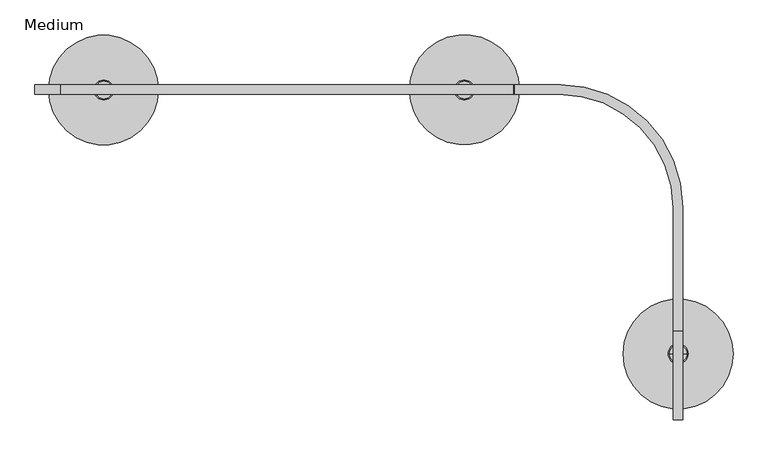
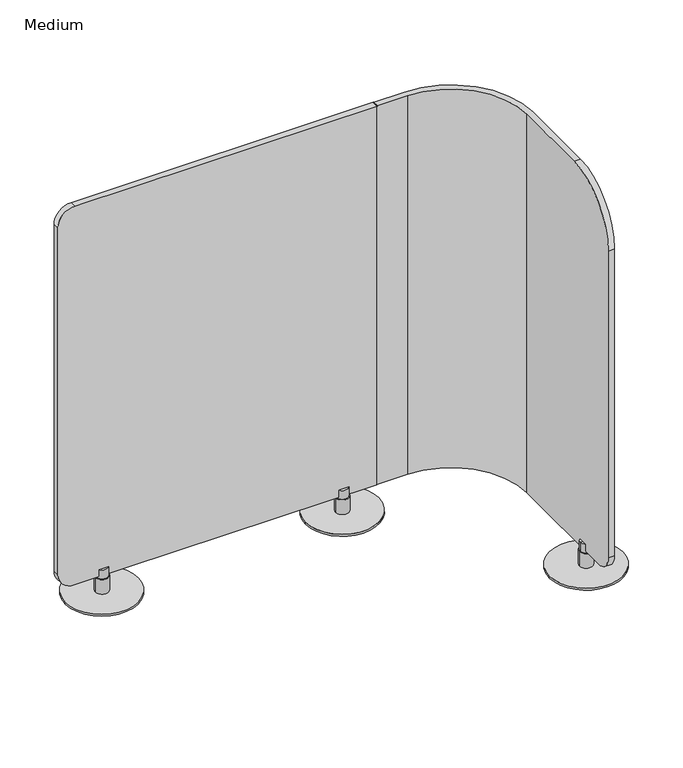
"""IFC4 building model written with IfcOpenShell, lengths in millimetres: furniture geometry, Coalesse_AM_SpaceDivision_Screen_Ensemble_J : Medium."""

from ifc_helpers import new_model, si_unit, point, frame, frame_2d, origin, origin_with_axes, place, context, project, spatial, polyline, circle_curve, trimmed, segment, composite_curve, outline, extrude, source, transform, mapped, element, save
from ifc_brep_helpers import plane_surface, cylinder_surface, revolved_surface, advanced_brep


def medium_1cc685ec(model_context):
    return source(origin(), model_context, "Body", "SolidModel", [
        advanced_brep(
        [(1070.6348132, -12.7, 7.8732992), (1121.4348132, -12.7, 7.8732992), (1096.0348132, -12.7, 7.8732992), (1070.6348132, -12.7, 67.1258584), (1121.4348132, -12.7, 67.1258584), (1073.8888853, -12.7, 67.1258584), (1118.1807411, -12.7, 67.1258584), (1073.8888853, -12.7, 102.873817), (1118.1807411, -12.7, 102.873817), (1096.0348132, -12.7, 102.873817)],
        [
            (0, 1, circle_curve(frame((1096.0348132, -12.7, 7.8732992), z_axis=(0.0, 0.0, -1.0), x_axis=(1.0, 0.0, 0.0)), 25.4)),
            (1, 2),
            (2, 0),
            (1, 0, circle_curve(frame((1096.0348132, -12.7, 7.8732992), z_axis=(0.0, 0.0, -1.0), x_axis=(1.0, 0.0, 0.0)), 25.4)),
            (3, 4, circle_curve(frame((1096.0348132, -12.7, 67.1258584), z_axis=(0.0, 0.0, -1.0), x_axis=(1.0, 0.0, 0.0)), 25.4)),
            (4, 1),
            (0, 3),
            (4, 3, circle_curve(frame((1096.0348132, -12.7, 67.1258584), z_axis=(0.0, 0.0, -1.0), x_axis=(1.0, 0.0, 0.0)), 25.4)),
            (5, 6, circle_curve(frame((1096.0348132, -12.7, 67.1258584), z_axis=(0.0, 0.0, -1.0), x_axis=(1.0, 0.0, 0.0)), 22.1459279)),
            (6, 4),
            (3, 5),
            (6, 5, circle_curve(frame((1096.0348132, -12.7, 67.1258584), z_axis=(0.0, 0.0, -1.0), x_axis=(1.0, 0.0, 0.0)), 22.1459279)),
            (7, 8, circle_curve(frame((1096.0348132, -12.7, 102.873817), z_axis=(0.0, 0.0, -1.0), x_axis=(1.0, 0.0, 0.0)), 22.1459279)),
            (8, 6),
            (5, 7),
            (8, 7, circle_curve(frame((1096.0348132, -12.7, 102.873817), z_axis=(0.0, 0.0, -1.0), x_axis=(1.0, 0.0, 0.0)), 22.1459279)),
            (9, 8),
            (7, 9),
        ],
        [
            plane_surface(frame((1096.0348132, -12.7, 7.8732992), z_axis=(0.0, 0.0, -1.0), x_axis=(1.0, 0.0, 0.0))),
            cylinder_surface(frame((1096.0348132, -12.7, 102.873817), z_axis=(0.0, 0.0, 1.0), x_axis=(1.0, 0.0, 0.0)), 25.4),
            plane_surface(frame((1096.0348132, -12.7, 67.1258584), z_axis=(0.0, 0.0, 1.0), x_axis=(1.0, 0.0, 0.0))),
            cylinder_surface(frame((1096.0348132, -12.7, 102.873817), z_axis=(0.0, 0.0, 1.0), x_axis=(1.0, 0.0, 0.0)), 22.1459279),
            plane_surface(frame((1096.0348132, -12.7, 102.873817), z_axis=(0.0, 0.0, 1.0), x_axis=(1.0, 0.0, 0.0))),
        ],
        [
            (0, [[1, 2, 3]]),
            (0, [[4, -3, -2]]),
            (1, [[5, 6, -1, 7]]),
            (1, [[8, -7, -4, -6]]),
            (2, [[9, 10, -5, 11]]),
            (2, [[12, -11, -8, -10]]),
            (3, [[13, 14, -9, 15]]),
            (3, [[16, -15, -12, -14]]),
            (4, [[17, -13, 18]]),
            (4, [[-18, -16, -17]]),
        ],
    ),
        advanced_brep(
        [(1653.2794195, -628.1115594, 1606.042), (1653.2794195, -853.9734079, 1380.1801515), (1653.2794195, -853.9734079, 139.3436268), (1653.2794195, -789.1395851, 74.509804), (1653.2794195, -311.8992003, 74.5093328), (1653.2794195, -311.8992003, 1606.042), (1629.3018689, -789.1395851, 74.509804), (1629.3018689, -853.9734079, 139.3436268), (1629.3018689, -853.9734079, 1380.1801515), (1629.3018689, -628.1115594, 1606.042), (1629.3018689, -314.6621864, 1606.042), (1629.3018689, -314.6621864, 74.5093328), (1338.6115194, -23.9718373, 74.509804), (1224.5282013, -23.9774863, 74.509804), (1224.5282013, 0.0, 74.509804), (1341.4047188, 0.0, 74.509804), (1341.4047188, 0.0, 1606.042), (1224.5474217, 0.0, 1606.042), (1224.5474217, -23.9774863, 1606.042), (1338.6115194, -23.9718373, 1606.042), (1223.313448, 0.0, 75.7241996), (1223.313448, 0.0, 1604.8080263), (1223.313448, -23.9774863, 1604.8080263), (1223.313448, -23.9774863, 75.7241996)],
        [
            (0, 1, circle_curve(frame((1653.2794195, -628.1115594, 1380.1801515), z_axis=(1.0, 0.0, 0.0), x_axis=(0.0, 1.0, 0.0)), 225.8618485)),
            (1, 2),
            (2, 3, circle_curve(frame((1653.2794195, -789.1395851, 139.3436268), z_axis=(1.0, 0.0, 0.0), x_axis=(0.0, 1.0, 0.0)), 64.8338228)),
            (3, 4),
            (4, 5),
            (5, 0),
            (6, 7, circle_curve(frame((1629.3018689, -789.1395851, 139.3436268), z_axis=(-1.0, 0.0, 0.0), x_axis=(0.0, 1.0, 0.0)), 64.8338228)),
            (7, 8),
            (8, 9, circle_curve(frame((1629.3018689, -628.1115594, 1380.1801515), z_axis=(-1.0, 0.0, 0.0), x_axis=(0.0, 1.0, 0.0)), 225.8618485)),
            (9, 10),
            (10, 11),
            (11, 6),
            (0, 9),
            (8, 1),
            (7, 2),
            (6, 3),
            (11, 12, circle_curve(frame((1338.6115194, -314.6621864, 74.509804), z_axis=(0.0, 0.0, 1.0), x_axis=(1.0, 0.0, 0.0)), 290.690349)),
            (12, 13),
            (13, 14),
            (14, 15),
            (15, 4, circle_curve(frame((1341.4047188, -311.8992003, 74.509804), z_axis=(0.0, 0.0, -1.0), x_axis=(1.0, 0.0, 0.0)), 311.8992003)),
            (5, 16, circle_curve(frame((1341.4047188, -311.8992003, 1606.042), z_axis=(0.0, 0.0, 1.0), x_axis=(1.0, 0.0, 0.0)), 311.8992003)),
            (16, 17),
            (17, 18),
            (18, 19),
            (19, 10, circle_curve(frame((1338.6115194, -314.6621864, 1606.042), z_axis=(0.0, 0.0, -1.0), x_axis=(1.0, 0.0, 0.0)), 290.690349)),
            (15, 16),
            (14, 20, circle_curve(frame((1224.5282013, 0.0, 75.7241996), z_axis=(0.0, 1.0, 0.0), x_axis=(1.0, 0.0, 0.0)), 1.2147532)),
            (20, 21),
            (21, 17, circle_curve(frame((1224.5474217, 0.0, 1604.8080263), z_axis=(0.0, 1.0, 0.0), x_axis=(1.0, 0.0, 0.0)), 1.2339737)),
            (22, 18, circle_curve(frame((1224.5474217, -23.9774863, 1604.8080263), z_axis=(0.0, 1.0, 0.0), x_axis=(1.0, 0.0, 0.0)), 1.2339737)),
            (21, 22),
            (23, 22),
            (20, 23),
            (13, 23, circle_curve(frame((1224.5282013, -23.9774863, 75.7241996), z_axis=(0.0, 1.0, 0.0), x_axis=(1.0, 0.0, 0.0)), 1.2147532)),
            (12, 19),
        ],
        [
            plane_surface(frame((1653.2794195, -402.2497109, 1380.1801515), z_axis=(1.0, 0.0, 0.0), x_axis=(0.0, 0.0, 1.0))),
            plane_surface(frame((1629.3018689, -402.2497109, 1380.1801515), z_axis=(-1.0, 0.0, 0.0), x_axis=(0.0, 0.0, -1.0))),
            cylinder_surface(frame((1629.3018689, -628.1115594, 1380.1801515), z_axis=(1.0, 0.0, 0.0), x_axis=(0.0, 1.0, 0.0)), 225.8618485),
            plane_surface(frame((1653.2794195, -853.9734079, 1380.1801515), z_axis=(0.0, -1.0, 0.0), x_axis=(-1.0, 0.0, 0.0))),
            cylinder_surface(frame((1629.3018689, -789.1395851, 139.3436268), z_axis=(1.0, 0.0, 0.0), x_axis=(0.0, 1.0, 0.0)), 64.8338228),
            plane_surface(frame((1653.2794195, -789.1395851, 74.509804), z_axis=(0.0, 0.0, -1.0), x_axis=(-1.0, 0.0, 0.0))),
            plane_surface(frame((1653.2794195, -317.5353355, 1606.042), z_axis=(0.0, 0.0, 1.0), x_axis=(-1.0, 0.0, 0.0))),
            cylinder_surface(frame((1341.4047188, -311.8992003, 74.5093328), z_axis=(0.0, 0.0, 1.0), x_axis=(1.0, 0.0, 0.0)), 311.8992003),
            plane_surface(frame((1341.4047188, 0.0, 1606.042), z_axis=(0.0, 1.0, 0.0), x_axis=(0.0, 0.0, -1.0))),
            cylinder_surface(frame((1224.5474217, 0.0, 1604.8080263), z_axis=(0.0, -1.0, 0.0), x_axis=(1.0, 0.0, 0.0)), 1.2339737),
            plane_surface(frame((1223.313448, -23.9774863, 1604.8080263), z_axis=(-1.0, 0.0, 0.0), x_axis=(0.0, 1.0, 0.0))),
            cylinder_surface(frame((1224.5282013, 0.0, 75.7241996), z_axis=(0.0, -1.0, 0.0), x_axis=(1.0, 0.0, 0.0)), 1.2147532),
            plane_surface(frame((1337.0743869, -23.9718373, 1606.042), z_axis=(0.0, -1.0, 0.0), x_axis=(0.0, 0.0, -1.0))),
            revolved_surface(polyline([(1629.3018683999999, -314.6621864, 74.5093328), (1629.3018683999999, -314.6621864, 1606.042)]), (1338.6115194, -314.6621864, 74.5093328), (0.0, 0.0, -1.0)),
        ],
        [
            (0, [[1, 2, 3, 4, 5, 6]]),
            (1, [[7, 8, 9, 10, 11, 12]]),
            (2, [[-1, 13, -9, 14]]),
            (3, [[-2, -14, -8, 15]]),
            (4, [[-3, -15, -7, 16]]),
            (5, [[-16, -12, 17, 18, 19, 20, 21, -4]]),
            (6, [[-13, -6, 22, 23, 24, 25, 26, -10]]),
            (7, [[-22, -5, -21, 27]]),
            (8, [[-23, -27, -20, 28, 29, 30]]),
            (9, [[31, -24, -30, 32]]),
            (10, [[33, -32, -29, 34]]),
            (11, [[35, -34, -28, -19]]),
            (12, [[-25, -31, -33, -35, -18, 36]]),
            (13, [[-26, -36, -17, -11]]),
        ],
    ),
        extrude(outline(composite_curve([segment(trimmed(circle_curve(frame_2d((1541.0783364, 64.9636636)), 64.9636636), [point((1606.042, 64.9636636))], [point((1541.0783364, 0.0))], False, "CARTESIAN"), True, "CONTINUOUS"), segment(polyline([(1541.0783364, 0.0), (138.0093328, 0.0)]), True, "CONTINUOUS"), segment(trimmed(circle_curve(frame_2d((138.0093328, 63.5)), 63.5), [point((138.0093328, 0.0))], [point((74.5093328, 63.5))], False, "CARTESIAN"), True, "CONTINUOUS"), segment(polyline([(74.5093328, 63.5), (74.5093328, 1222.03476)]), True, "CONTINUOUS"), segment(trimmed(circle_curve(frame_2d((75.7880209, 1222.03476)), 1.278688), [point((74.5093328, 1222.03476))], [point((75.7880209, 1223.313448))], False, "CARTESIAN"), True, "CONTINUOUS"), segment(polyline([(75.7880209, 1223.313448), (1604.8600977, 1223.313448)]), True, "CONTINUOUS"), segment(trimmed(circle_curve(frame_2d((1604.8600977, 1222.1315458)), 1.1819023), [point((1604.8600977, 1223.313448))], [point((1606.042, 1222.1315458))], False, "CARTESIAN"), True, "CONTINUOUS"), segment(polyline([(1606.042, 1222.1315458), (1606.042, 64.9636636)]), True, "CONTINUOUS")], self_intersect=False)), frame((0.0, -23.9774863, 0.0), z_axis=(0.0, 1.0, 0.0), x_axis=(0.0, 0.0, 1.0)), (0.0, 0.0, 1.0), 23.9774863),
        advanced_brep(
        [(1616.006583, -685.8161337, 7.8732992), (1666.806583, -685.8161337, 7.8732992), (1641.406583, -685.8161337, 7.8732992), (1616.006583, -685.8161337, 67.1258584), (1666.806583, -685.8161337, 67.1258584), (1619.2606551, -685.8161337, 67.1258584), (1663.5525109, -685.8161337, 67.1258584), (1619.2606551, -685.8161337, 102.873817), (1663.5525109, -685.8161337, 102.873817), (1641.406583, -685.8161337, 102.873817)],
        [
            (0, 1, circle_curve(frame((1641.406583, -685.8161337, 7.8732992), z_axis=(0.0, 0.0, -1.0), x_axis=(1.0, 0.0, 0.0)), 25.4)),
            (1, 2),
            (2, 0),
            (1, 0, circle_curve(frame((1641.406583, -685.8161337, 7.8732992), z_axis=(0.0, 0.0, -1.0), x_axis=(1.0, 0.0, 0.0)), 25.4)),
            (3, 4, circle_curve(frame((1641.406583, -685.8161337, 67.1258584), z_axis=(0.0, 0.0, -1.0), x_axis=(1.0, 0.0, 0.0)), 25.4)),
            (4, 1),
            (0, 3),
            (4, 3, circle_curve(frame((1641.406583, -685.8161337, 67.1258584), z_axis=(0.0, 0.0, -1.0), x_axis=(1.0, 0.0, 0.0)), 25.4)),
            (5, 6, circle_curve(frame((1641.406583, -685.8161337, 67.1258584), z_axis=(0.0, 0.0, -1.0), x_axis=(1.0, 0.0, 0.0)), 22.1459279)),
            (6, 4),
            (3, 5),
            (6, 5, circle_curve(frame((1641.406583, -685.8161337, 67.1258584), z_axis=(0.0, 0.0, -1.0), x_axis=(1.0, 0.0, 0.0)), 22.1459279)),
            (7, 8, circle_curve(frame((1641.406583, -685.8161337, 102.873817), z_axis=(0.0, 0.0, -1.0), x_axis=(1.0, 0.0, 0.0)), 22.1459279)),
            (8, 6),
            (5, 7),
            (8, 7, circle_curve(frame((1641.406583, -685.8161337, 102.873817), z_axis=(0.0, 0.0, -1.0), x_axis=(1.0, 0.0, 0.0)), 22.1459279)),
            (9, 8),
            (7, 9),
        ],
        [
            plane_surface(frame((1641.406583, -685.8161337, 7.8732992), z_axis=(0.0, 0.0, -1.0), x_axis=(1.0, 0.0, 0.0))),
            cylinder_surface(frame((1641.406583, -685.8161337, 102.873817), z_axis=(0.0, 0.0, 1.0), x_axis=(1.0, 0.0, 0.0)), 25.4),
            plane_surface(frame((1641.406583, -685.8161337, 67.1258584), z_axis=(0.0, 0.0, 1.0), x_axis=(1.0, 0.0, 0.0))),
            cylinder_surface(frame((1641.406583, -685.8161337, 102.873817), z_axis=(0.0, 0.0, 1.0), x_axis=(1.0, 0.0, 0.0)), 22.1459279),
            plane_surface(frame((1641.406583, -685.8161337, 102.873817), z_axis=(0.0, 0.0, 1.0), x_axis=(1.0, 0.0, 0.0))),
        ],
        [
            (0, [[1, 2, 3]]),
            (0, [[4, -3, -2]]),
            (1, [[5, 6, -1, 7]]),
            (1, [[8, -7, -4, -6]]),
            (2, [[9, 10, -5, 11]]),
            (2, [[12, -11, -8, -10]]),
            (3, [[13, 14, -9, 15]]),
            (3, [[16, -15, -12, -14]]),
            (4, [[17, -13, 18]]),
            (4, [[-18, -16, -17]]),
        ],
    ),
        advanced_brep(
        [(150.4803497, -12.7, 7.8732992), (201.2803497, -12.7, 7.8732992), (175.8803497, -12.7, 7.8732992), (150.4803497, -12.7, 67.1258584), (201.2803497, -12.7, 67.1258584), (153.7344218, -12.7, 67.1258584), (198.0262776, -12.7, 67.1258584), (153.7344218, -12.7, 102.873817), (198.0262776, -12.7, 102.873817), (175.8803497, -12.7, 102.873817)],
        [
            (0, 1, circle_curve(frame((175.8803497, -12.7, 7.8732992), z_axis=(0.0, 0.0, -1.0), x_axis=(1.0, 0.0, 0.0)), 25.4)),
            (1, 2),
            (2, 0),
            (1, 0, circle_curve(frame((175.8803497, -12.7, 7.8732992), z_axis=(0.0, 0.0, -1.0), x_axis=(1.0, 0.0, 0.0)), 25.4)),
            (3, 4, circle_curve(frame((175.8803497, -12.7, 67.1258584), z_axis=(0.0, 0.0, -1.0), x_axis=(1.0, 0.0, 0.0)), 25.4)),
            (4, 1),
            (0, 3),
            (4, 3, circle_curve(frame((175.8803497, -12.7, 67.1258584), z_axis=(0.0, 0.0, -1.0), x_axis=(1.0, 0.0, 0.0)), 25.4)),
            (5, 6, circle_curve(frame((175.8803497, -12.7, 67.1258584), z_axis=(0.0, 0.0, -1.0), x_axis=(1.0, 0.0, 0.0)), 22.1459279)),
            (6, 4),
            (3, 5),
            (6, 5, circle_curve(frame((175.8803497, -12.7, 67.1258584), z_axis=(0.0, 0.0, -1.0), x_axis=(1.0, 0.0, 0.0)), 22.1459279)),
            (7, 8, circle_curve(frame((175.8803497, -12.7, 102.873817), z_axis=(0.0, 0.0, -1.0), x_axis=(1.0, 0.0, 0.0)), 22.1459279)),
            (8, 6),
            (5, 7),
            (8, 7, circle_curve(frame((175.8803497, -12.7, 102.873817), z_axis=(0.0, 0.0, -1.0), x_axis=(1.0, 0.0, 0.0)), 22.1459279)),
            (9, 8),
            (7, 9),
        ],
        [
            plane_surface(frame((175.8803497, -12.7, 7.8732992), z_axis=(0.0, 0.0, -1.0), x_axis=(1.0, 0.0, 0.0))),
            cylinder_surface(frame((175.8803497, -12.7, 102.873817), z_axis=(0.0, 0.0, 1.0), x_axis=(1.0, 0.0, 0.0)), 25.4),
            plane_surface(frame((175.8803497, -12.7, 67.1258584), z_axis=(0.0, 0.0, 1.0), x_axis=(1.0, 0.0, 0.0))),
            cylinder_surface(frame((175.8803497, -12.7, 102.873817), z_axis=(0.0, 0.0, 1.0), x_axis=(1.0, 0.0, 0.0)), 22.1459279),
            plane_surface(frame((175.8803497, -12.7, 102.873817), z_axis=(0.0, 0.0, 1.0), x_axis=(1.0, 0.0, 0.0))),
        ],
        [
            (0, [[1, 2, 3]]),
            (0, [[4, -3, -2]]),
            (1, [[5, 6, -1, 7]]),
            (1, [[8, -7, -4, -6]]),
            (2, [[9, 10, -5, 11]]),
            (2, [[12, -11, -8, -10]]),
            (3, [[13, 14, -9, 15]]),
            (3, [[16, -15, -12, -14]]),
            (4, [[17, -13, 18]]),
            (4, [[-18, -16, -17]]),
        ],
    ),
        extrude(outline(composite_curve([segment(trimmed(circle_curve(frame_2d((174.96528, -12.7801048)), 140.0479005), [point((34.9173795, -12.7801048))], [point((315.0131805, -12.7801048))], False, "CARTESIAN"), True, "CONTINUOUS"), segment(trimmed(circle_curve(frame_2d((174.96528, -12.7801048)), 140.0479005), [point((315.0131805, -12.7801048))], [point((34.9173795, -12.7801048))], False, "CARTESIAN"), True, "CONTINUOUS")], self_intersect=False)), origin_with_axes(), (0.0, 0.0, 1.0), 7.8732992),
        extrude(outline(composite_curve([segment(trimmed(circle_curve(frame_2d((1641.2884683, -686.081839)), 140.3919114), [point((1500.8965568, -686.081839))], [point((1781.6803797, -686.081839))], False, "CARTESIAN"), True, "CONTINUOUS"), segment(trimmed(circle_curve(frame_2d((1641.2884683, -686.081839)), 140.3919114), [point((1781.6803797, -686.081839))], [point((1500.8965568, -686.081839))], False, "CARTESIAN"), True, "CONTINUOUS")], self_intersect=False)), origin_with_axes(), (0.0, 0.0, 1.0), 7.8732992),
        extrude(outline(composite_curve([segment(trimmed(circle_curve(frame_2d((1096.127587, -11.9908814)), 140.3919114), [point((955.7356756, -11.9908814))], [point((1236.5194984, -11.9908814))], False, "CARTESIAN"), True, "CONTINUOUS"), segment(trimmed(circle_curve(frame_2d((1096.127587, -11.9908814)), 140.3919114), [point((1236.5194984, -11.9908814))], [point((955.7356756, -11.9908814))], False, "CARTESIAN"), True, "CONTINUOUS")], self_intersect=False)), origin_with_axes(), (0.0, 0.0, 1.0), 7.8732992),
    ])


if __name__ == "__main__":
    model = new_model("IFC4")
    model_context = context("Model", 3, world=origin())
    ifc_project = project(units=[si_unit("LENGTHUNIT", "METRE", prefix="MILLI")], contexts=[model_context])
    site = spatial("IfcSite", under=ifc_project)
    building = spatial("IfcBuilding", under=site)
    placement = place(None, origin())
    medium_shape = medium_1cc685ec(model_context)
    element("IfcFurniture", 1, ObjectType="Coalesse_AM_SpaceDivision_Screen_Ensemble_J : Medium", at=placement, inside=building, context=model_context, shape_type="MappedRepresentation", body=[
        mapped(medium_shape, transform((0.0, 0.0, 0.0), x_axis=(1.0, 0.0, 0.0), y_axis=(0.0, 1.0, 0.0), z_axis=(0.0, 0.0, 1.0))),
    ])
    save(model, "model.ifc")
